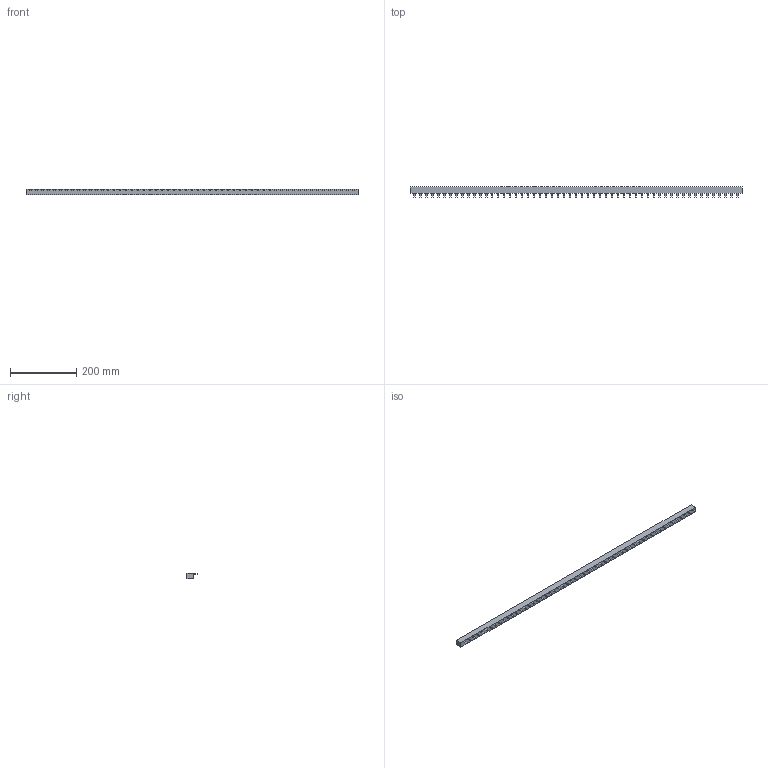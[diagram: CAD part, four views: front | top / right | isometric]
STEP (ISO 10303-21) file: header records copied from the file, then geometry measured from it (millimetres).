
FILE_DESCRIPTION (( 'STEP AP214' ), '1' );
FILE_NAME ('Øèíà 3P 1000.STEP', '2024-03-07T06:37:50', ( '' ), ( '' ), 'SwSTEP 2.0', 'SolidWorks 2018', '' );
FILE_SCHEMA (( 'AUTOMOTIVE_DESIGN' ));
Length unit declared in the file: millimetre
Products named in the file (1): 嵙縺 3P 1000
Bounding box: 1000 x 30.3 x 16.2 mm (x, y, z)
Volume: 319226.4 mm3; surface area: 78447 mm2
Topology: 1 solids, 1 shells, 281 faces, 672 edges, 448 vertices
Faces by surface type: plane 281
Entity records: 8000 total; most frequent: CARTESIAN_POINT 1402, ORIENTED_EDGE 1344, DIRECTION 1236, LINE 672, EDGE_CURVE 672, VECTOR 672, VERTEX_POINT 448, EDGE_LOOP 336
